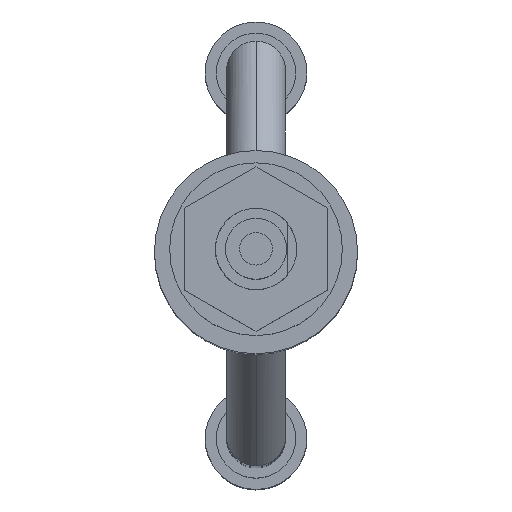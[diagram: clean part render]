
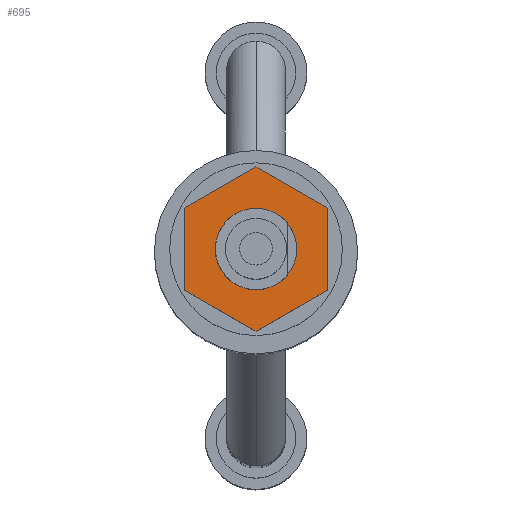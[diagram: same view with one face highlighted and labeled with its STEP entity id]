
A CAD part, top view. The second image highlights one B-rep face of the part: STEP entity #695.
In plain terms, the highlighted planar face has unit normal (0, 0, 1) as drawn and (-1, 0, 0) by its records, which use the part's own axes.
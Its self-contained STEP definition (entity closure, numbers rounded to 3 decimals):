
#684 = EDGE_CURVE ( 'NONE', #685, #686, #1929, .T. ) ;
#685 = VERTEX_POINT ( 'NONE', #1924 ) ;
#686 = VERTEX_POINT ( 'NONE', #1986 ) ;
#695 = ADVANCED_FACE ( 'NONE', ( #1970, #1969 ), #1968, .T. ) ;
#696 = EDGE_LOOP ( 'NONE', ( #746, #750, #753, #756, #759, #731 ) ) ;
#730 = VERTEX_POINT ( 'NONE', #2051 ) ;
#731 = ORIENTED_EDGE ( 'NONE', *, *, #732, .T. ) ;
#732 = EDGE_CURVE ( 'NONE', #730, #748, #2050, .T. ) ;
#733 = EDGE_LOOP ( 'NONE', ( #734, #735 ) ) ;
#734 = ORIENTED_EDGE ( 'NONE', *, *, #684, .F. ) ;
#735 = ORIENTED_EDGE ( 'NONE', *, *, #736, .F. ) ;
#736 = EDGE_CURVE ( 'NONE', #686, #685, #2046, .T. ) ;
#746 = ORIENTED_EDGE ( 'NONE', *, *, #747, .T. ) ;
#747 = EDGE_CURVE ( 'NONE', #748, #749, #2023, .T. ) ;
#748 = VERTEX_POINT ( 'NONE', #2019 ) ;
#749 = VERTEX_POINT ( 'NONE', #2085 ) ;
#750 = ORIENTED_EDGE ( 'NONE', *, *, #751, .T. ) ;
#751 = EDGE_CURVE ( 'NONE', #749, #752, #2084, .T. ) ;
#752 = VERTEX_POINT ( 'NONE', #2080 ) ;
#753 = ORIENTED_EDGE ( 'NONE', *, *, #754, .T. ) ;
#754 = EDGE_CURVE ( 'NONE', #752, #755, #2079, .T. ) ;
#755 = VERTEX_POINT ( 'NONE', #2075 ) ;
#756 = ORIENTED_EDGE ( 'NONE', *, *, #757, .T. ) ;
#757 = EDGE_CURVE ( 'NONE', #755, #758, #2074, .T. ) ;
#758 = VERTEX_POINT ( 'NONE', #2070 ) ;
#759 = ORIENTED_EDGE ( 'NONE', *, *, #760, .T. ) ;
#760 = EDGE_CURVE ( 'NONE', #758, #730, #2069, .T. ) ;
#1920 = DIRECTION ( 'NONE',  ( 0., -1., 0. ) ) ;
#1921 = DIRECTION ( 'NONE',  ( -1., 0., 0. ) ) ;
#1922 = CARTESIAN_POINT ( 'NONE',  ( 8.9, 0., 0. ) ) ;
#1923 = AXIS2_PLACEMENT_3D ( 'NONE', #1922, #1921, #1920 ) ;
#1924 = CARTESIAN_POINT ( 'NONE',  ( 8.9, 2., 0. ) ) ;
#1929 = CIRCLE ( 'NONE', #1923, 2. ) ;
#1964 = DIRECTION ( 'NONE',  ( 0., -1., 0. ) ) ;
#1965 = DIRECTION ( 'NONE',  ( -1., 0., 0. ) ) ;
#1966 = CARTESIAN_POINT ( 'NONE',  ( 8.9, 4.041, 0. ) ) ;
#1967 = AXIS2_PLACEMENT_3D ( 'NONE', #1966, #1965, #1964 ) ;
#1968 = PLANE ( 'NONE',  #1967 ) ;
#1969 = FACE_BOUND ( 'NONE', #733, .T. ) ;
#1970 = FACE_OUTER_BOUND ( 'NONE', #696, .T. ) ;
#1986 = CARTESIAN_POINT ( 'NONE',  ( 8.9, -2., 0. ) ) ;
#2019 = CARTESIAN_POINT ( 'NONE',  ( 8.9, 2.021, 3.5 ) ) ;
#2020 = DIRECTION ( 'NONE',  ( 0., 0.5, -0.866 ) ) ;
#2021 = VECTOR ( 'NONE', #2020, 1000. ) ;
#2022 = CARTESIAN_POINT ( 'NONE',  ( 8.9, 2.021, 3.5 ) ) ;
#2023 = LINE ( 'NONE', #2022, #2021 ) ;
#2042 = DIRECTION ( 'NONE',  ( 0., -1., 0. ) ) ;
#2043 = DIRECTION ( 'NONE',  ( -1., 0., 0. ) ) ;
#2044 = CARTESIAN_POINT ( 'NONE',  ( 8.9, 0., 0. ) ) ;
#2045 = AXIS2_PLACEMENT_3D ( 'NONE', #2044, #2043, #2042 ) ;
#2046 = CIRCLE ( 'NONE', #2045, 2. ) ;
#2047 = DIRECTION ( 'NONE',  ( 0., 1., 0. ) ) ;
#2048 = VECTOR ( 'NONE', #2047, 1000. ) ;
#2049 = CARTESIAN_POINT ( 'NONE',  ( 8.9, -2.021, 3.5 ) ) ;
#2050 = LINE ( 'NONE', #2049, #2048 ) ;
#2051 = CARTESIAN_POINT ( 'NONE',  ( 8.9, -2.021, 3.5 ) ) ;
#2066 = DIRECTION ( 'NONE',  ( 0., 0.5, 0.866 ) ) ;
#2067 = VECTOR ( 'NONE', #2066, 1000. ) ;
#2068 = CARTESIAN_POINT ( 'NONE',  ( 8.9, -4.041, 0. ) ) ;
#2069 = LINE ( 'NONE', #2068, #2067 ) ;
#2070 = CARTESIAN_POINT ( 'NONE',  ( 8.9, -4.041, 0. ) ) ;
#2071 = DIRECTION ( 'NONE',  ( 0., -0.5, 0.866 ) ) ;
#2072 = VECTOR ( 'NONE', #2071, 1000. ) ;
#2073 = CARTESIAN_POINT ( 'NONE',  ( 8.9, -2.021, -3.5 ) ) ;
#2074 = LINE ( 'NONE', #2073, #2072 ) ;
#2075 = CARTESIAN_POINT ( 'NONE',  ( 8.9, -2.021, -3.5 ) ) ;
#2076 = DIRECTION ( 'NONE',  ( 0., -1., 0. ) ) ;
#2077 = VECTOR ( 'NONE', #2076, 1000. ) ;
#2078 = CARTESIAN_POINT ( 'NONE',  ( 8.9, 2.021, -3.5 ) ) ;
#2079 = LINE ( 'NONE', #2078, #2077 ) ;
#2080 = CARTESIAN_POINT ( 'NONE',  ( 8.9, 2.021, -3.5 ) ) ;
#2081 = DIRECTION ( 'NONE',  ( 0., -0.5, -0.866 ) ) ;
#2082 = VECTOR ( 'NONE', #2081, 1000. ) ;
#2083 = CARTESIAN_POINT ( 'NONE',  ( 8.9, 4.041, 0. ) ) ;
#2084 = LINE ( 'NONE', #2083, #2082 ) ;
#2085 = CARTESIAN_POINT ( 'NONE',  ( 8.9, 4.041, 0. ) ) ;
